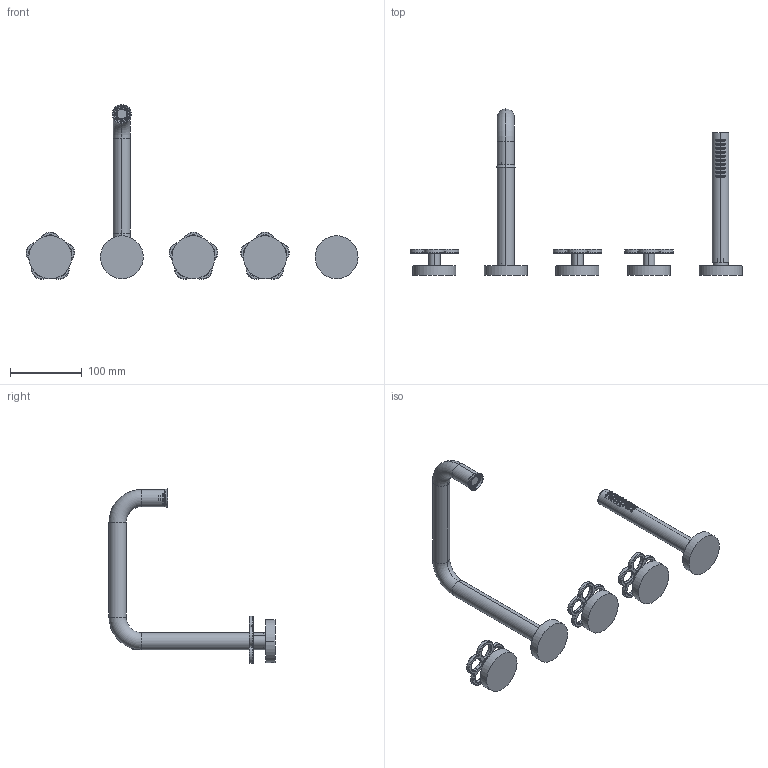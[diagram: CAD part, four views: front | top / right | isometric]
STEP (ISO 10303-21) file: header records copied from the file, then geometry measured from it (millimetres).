
FILE_DESCRIPTION((''),'2;1');
FILE_NAME('20930T4650000000_SW0001','2023-01-31T18:30:58',('matteo.follador'),(''),'CREO PARAMETRIC BY PTC INC, 2020281','CREO PARAMETRIC BY PTC INC, 2020281','');
FILE_SCHEMA(('AUTOMOTIVE_DESIGN { 1 0 10303 214 1 1 1 1 }'));
Length unit declared in the file: millimetre
Products named in the file (1): 20930T4650000000_SW0001
Bounding box: 463.96 x 232 x 244.25 mm (x, y, z)
Volume: 303083.8 mm3; surface area: 164031.9 mm2
Topology: 9 solids, 11 shells, 1309 faces, 3157 edges, 1921 vertices
Faces by surface type: cylinder 410, cone 290, plane 290, torus 226, bspline 92, sphere 1
Entity records: 79602 total; most frequent: CARTESIAN_POINT 40599, ORIENTED_EDGE 6298, DIRECTION 6205, EDGE_CURVE 3149, AXIS2_PLACEMENT_3D 2578, VERTEX_POINT 1921, EDGE_LOOP 1560, CIRCLE 1351
